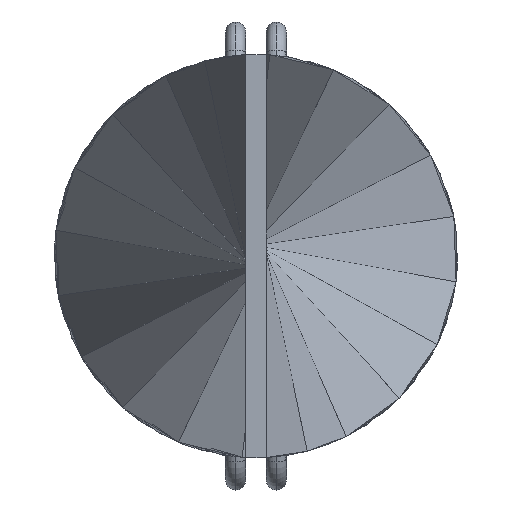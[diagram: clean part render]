
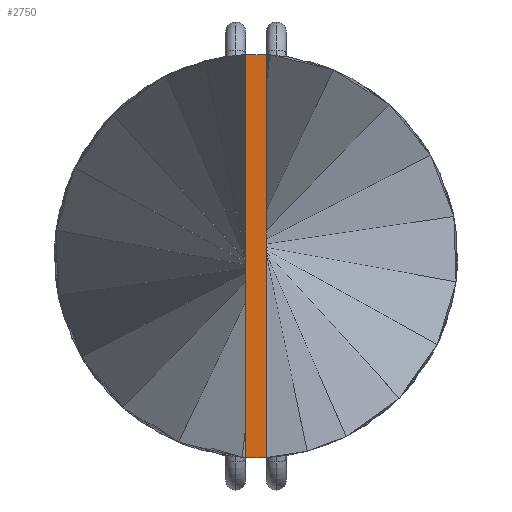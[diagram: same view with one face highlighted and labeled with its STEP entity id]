
A CAD part, left-side view. The second image highlights one B-rep face of the part: STEP entity #2750.
In plain terms, the highlighted planar face has unit normal (-1, 0, 0).
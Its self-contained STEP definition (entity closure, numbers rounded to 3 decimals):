
#42 = EDGE_CURVE ( 'NONE', #1492, #2396, #2296, .T. ) ;
#47 = VECTOR ( 'NONE', #3094, 1000. ) ;
#261 = VERTEX_POINT ( 'NONE', #979 ) ;
#262 = EDGE_LOOP ( 'NONE', ( #1877, #1567, #1265, #671 ) ) ;
#368 = VECTOR ( 'NONE', #2156, 1000. ) ;
#395 = AXIS2_PLACEMENT_3D ( 'NONE', #1353, #1107, #2845 ) ;
#421 = CARTESIAN_POINT ( 'NONE',  ( -150., -0.5, -9.9 ) ) ;
#520 = LINE ( 'NONE', #3114, #2500 ) ;
#671 = ORIENTED_EDGE ( 'NONE', *, *, #1803, .T. ) ;
#677 = CARTESIAN_POINT ( 'NONE',  ( -150., 0.5, -9.9 ) ) ;
#678 = LINE ( 'NONE', #1615, #47 ) ;
#979 = CARTESIAN_POINT ( 'NONE',  ( -150., 0.5, 9.9 ) ) ;
#1010 = EDGE_CURVE ( 'NONE', #1271, #261, #678, .T. ) ;
#1030 = LINE ( 'NONE', #421, #368 ) ;
#1096 = PLANE ( 'NONE',  #395 ) ;
#1107 = DIRECTION ( 'NONE',  ( -1., 0., 0. ) ) ;
#1265 = ORIENTED_EDGE ( 'NONE', *, *, #42, .T. ) ;
#1271 = VERTEX_POINT ( 'NONE', #1869 ) ;
#1353 = CARTESIAN_POINT ( 'NONE',  ( -150., 0., 0. ) ) ;
#1382 = DIRECTION ( 'NONE',  ( 0., 0., -1. ) ) ;
#1492 = VERTEX_POINT ( 'NONE', #2176 ) ;
#1567 = ORIENTED_EDGE ( 'NONE', *, *, #2824, .T. ) ;
#1615 = CARTESIAN_POINT ( 'NONE',  ( -150., -0.5, 9.9 ) ) ;
#1698 = VECTOR ( 'NONE', #2907, 1000. ) ;
#1803 = EDGE_CURVE ( 'NONE', #2396, #1271, #1030, .T. ) ;
#1817 = CARTESIAN_POINT ( 'NONE',  ( -150., -0.5, -9.9 ) ) ;
#1869 = CARTESIAN_POINT ( 'NONE',  ( -150., -0.5, 9.9 ) ) ;
#1877 = ORIENTED_EDGE ( 'NONE', *, *, #1010, .T. ) ;
#2001 = FACE_OUTER_BOUND ( 'NONE', #262, .T. ) ;
#2156 = DIRECTION ( 'NONE',  ( 0., 0., 1. ) ) ;
#2176 = CARTESIAN_POINT ( 'NONE',  ( -150., 0.5, -9.9 ) ) ;
#2296 = LINE ( 'NONE', #677, #1698 ) ;
#2396 = VERTEX_POINT ( 'NONE', #1817 ) ;
#2500 = VECTOR ( 'NONE', #1382, 1000. ) ;
#2750 = ADVANCED_FACE ( 'NONE', ( #2001 ), #1096, .T. ) ;
#2824 = EDGE_CURVE ( 'NONE', #261, #1492, #520, .T. ) ;
#2845 = DIRECTION ( 'NONE',  ( 0., 0., 1. ) ) ;
#2907 = DIRECTION ( 'NONE',  ( 0., -1., 0. ) ) ;
#3094 = DIRECTION ( 'NONE',  ( 0., 1., 0. ) ) ;
#3114 = CARTESIAN_POINT ( 'NONE',  ( -150., 0.5, 9.9 ) ) ;
